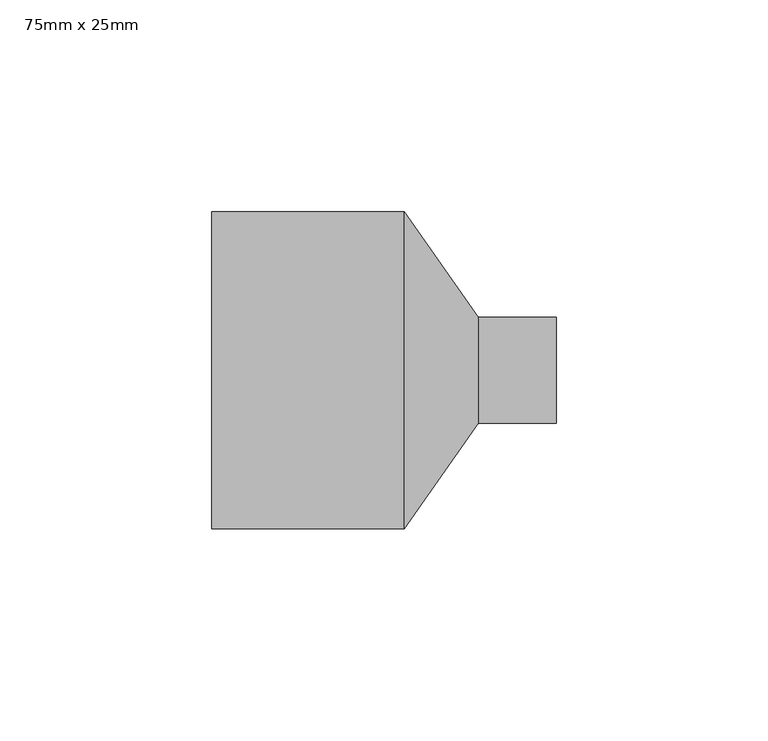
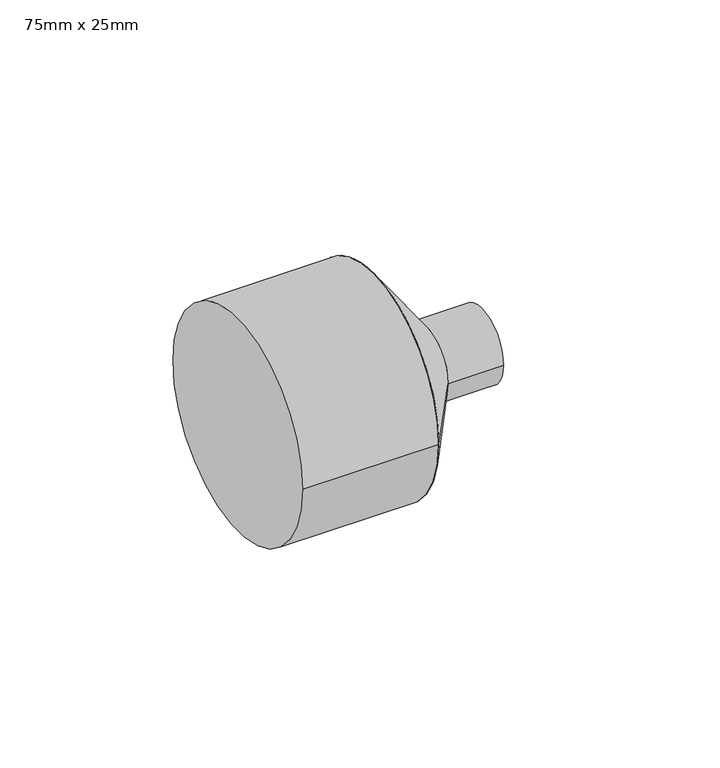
"""IFC4 building model written with IfcOpenShell, lengths in millimetres: pipe fitting geometry, PipeFitting_HTA_CPVC_ReducingBushesLongPattern : 75mm x 25mm."""

from ifc_helpers import new_model, si_unit, point, frame, origin, origin_2d, place, context, project, spatial, polyline, circle_curve, trimmed, segment, composite_curve, outline, extrude, source, transform, mapped, element, save
from ifc_brep_helpers import plane_surface, revolved_surface, advanced_brep


def pipe_fitting_75mm_x_25mm_5c699456(model_context):
    return source(origin(), model_context, "Body", "SolidModel", [
        advanced_brep(
        [(63.0, -12.5, 0.0), (63.0, 12.5, 0.0), (45.5, -37.5, 0.0), (45.5, 37.5, 0.0)],
        [
            (0, 1, circle_curve(frame((63.0, 0.0, 0.0), z_axis=(1.0, 0.0, 0.0), x_axis=(0.0, -1.0, 0.0)), 12.5)),
            (1, 0, circle_curve(frame((63.0, 0.0, 0.0), z_axis=(1.0, 0.0, 0.0), x_axis=(0.0, 1.0, 0.0)), 12.5)),
            (2, 3, circle_curve(frame((45.5, 0.0, 0.0), z_axis=(-1.0, 0.0, 0.0), x_axis=(0.0, 1.0, 0.0)), 37.5)),
            (3, 2, circle_curve(frame((45.5, 0.0, 0.0), z_axis=(-1.0, 0.0, 0.0), x_axis=(0.0, -1.0, 0.0)), 37.5)),
            (3, 1),
            (0, 2),
        ],
        [
            plane_surface(frame((63.0, 0.0, 0.0), z_axis=(1.0, 0.0, 0.0), x_axis=(0.0, 0.0, -1.0))),
            plane_surface(frame((45.5, 0.0, 0.0), z_axis=(-1.0, 0.0, 0.0), x_axis=(0.0, 0.0, -1.0))),
            revolved_surface(polyline([(63.0, -12.5, 0.0), (45.5, -37.5, 0.0)]), (71.75, 0.0, 0.0), (-1.0, 0.0, 0.0)),
            revolved_surface(polyline([(63.0, 12.5, 0.0), (45.5, 37.5, 0.0)]), (71.75, 0.0, 0.0), (-1.0, 0.0, 0.0)),
        ],
        [
            (0, [[1, 2]]),
            (1, [[3, 4]]),
            (2, [[-4, 5, -1, 6]]),
            (3, [[-3, -6, -2, -5]]),
        ],
    ),
        extrude(outline(composite_curve([segment(trimmed(circle_curve(origin_2d(), 12.5), [point((-12.5, 0.0))], [point((12.5, 0.0))], False, "CARTESIAN"), True, "CONTINUOUS"), segment(trimmed(circle_curve(origin_2d(), 12.5), [point((12.5, 0.0))], [point((-12.5, 0.0))], False, "CARTESIAN"), True, "CONTINUOUS")], self_intersect=False)), frame((63.0, 0.0, 0.0), z_axis=(1.0, 0.0, 0.0), x_axis=(0.0, 1.0, 0.0)), (0.0, 0.0, 1.0), 18.5),
        extrude(outline(composite_curve([segment(trimmed(circle_curve(origin_2d(), 37.5), [point((-37.5, 0.0))], [point((37.5, 0.0))], False, "CARTESIAN"), True, "CONTINUOUS"), segment(trimmed(circle_curve(origin_2d(), 37.5), [point((37.5, 0.0))], [point((-37.5, 0.0))], False, "CARTESIAN"), True, "CONTINUOUS")], self_intersect=False)), frame((0.0, 0.0, 0.0), z_axis=(1.0, 0.0, 0.0), x_axis=(0.0, 1.0, 0.0)), (0.0, 0.0, 1.0), 45.5),
    ])


if __name__ == "__main__":
    model = new_model("IFC4")
    model_context = context("Model", 3, world=origin())
    ifc_project = project(units=[si_unit("LENGTHUNIT", "METRE", prefix="MILLI")], contexts=[model_context])
    site = spatial("IfcSite", under=ifc_project)
    building = spatial("IfcBuilding", under=site)
    placement = place(None, origin())
    pipe_fitting_75mm_x_25mm_shape = pipe_fitting_75mm_x_25mm_5c699456(model_context)
    element("IfcPipeFitting", 1, ObjectType="PipeFitting_HTA_CPVC_ReducingBushesLongPattern : 75mm x 25mm", at=placement, inside=building, context=model_context, shape_type="MappedRepresentation", body=[
        mapped(pipe_fitting_75mm_x_25mm_shape, transform((0.0, 0.0, 0.0), x_axis=(1.0, 0.0, 0.0), y_axis=(0.0, 1.0, 0.0), z_axis=(0.0, 0.0, 1.0))),
    ])
    save(model, "model.ifc")
